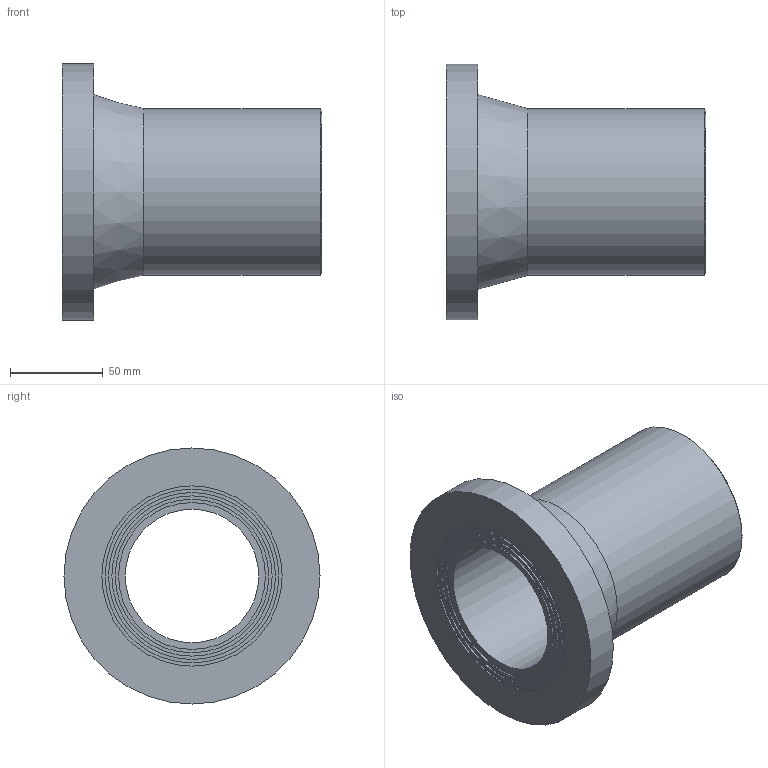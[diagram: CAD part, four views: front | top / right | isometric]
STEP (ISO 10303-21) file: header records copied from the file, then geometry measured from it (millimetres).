
FILE_DESCRIPTION(/* description */ ('Stub Flange 90'),/* implementation_level */ '2;1');
FILE_NAME(/* name */ 'C:\Dropbox\KIMPROJECTS-Inventor\99-16-3568-Processing\ElectroFusion Fittings\31.03.19\490207\490207090.ipt.stp',/* time_stamp */ '2019-03-31T18:57:43+03:00',/* author */ ('Кирилл'),/* organization */ (''),/* preprocessor_version */ 'ST-DEVELOPER v15.6',/* originating_system */ 'Autodesk Inventor 2015',/* authorisation */ '');
FILE_SCHEMA (('AUTOMOTIVE_DESIGN { 1 0 10303 214 3 1 1 }'));
Length unit declared in the file: millimetre
Products named in the file (1): 490207090
Bounding box: 140 x 138 x 138 mm (x, y, z)
Volume: 495510.5 mm3; surface area: 95584.3 mm2
Topology: 1 solids, 1 shells, 20 faces, 31 edges, 20 vertices
Faces by surface type: cylinder 9, plane 9, cone 2
Full cylindrical faces by diameter (mm): 72 x1, 79.2 x1, 82.8 x1, 86.4 x1, 90 x2, 93.6 x1, 97.2 x1, 138 x1
Entity records: 432 total; most frequent: DIRECTION 82, CARTESIAN_POINT 61, AXIS2_PLACEMENT_3D 41, EDGE_LOOP 40, ORIENTED_EDGE 40, FACE_BOUND 20, FACE_OUTER_BOUND 20, CIRCLE 20
